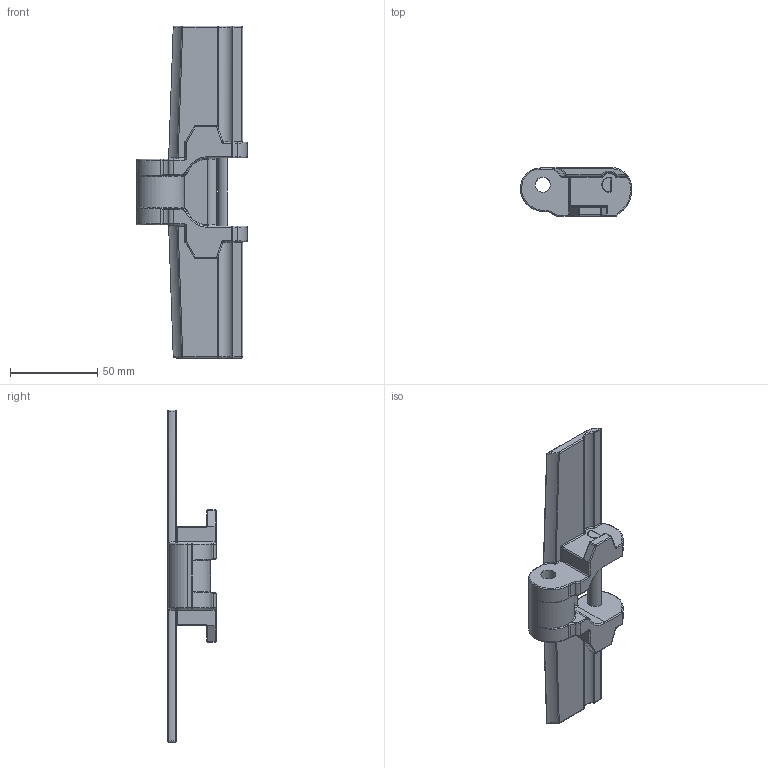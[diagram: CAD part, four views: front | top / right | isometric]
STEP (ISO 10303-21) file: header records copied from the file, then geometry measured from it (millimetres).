
FILE_DESCRIPTION (( 'STEP AP203' ), '1' );
FILE_NAME ('2000.882.750.STEP', '2020-05-04T14:50:06', ( 'Localadmin' ), ( 'Microsoft' ), 'SwSTEP 2.0', 'SolidWorks 2018', '' );
FILE_SCHEMA (( 'CONFIG_CONTROL_DESIGN' ));
Length unit declared in the file: millimetre
Products named in the file (1): 2000.882.750
Bounding box: 63.5 x 27.69 x 190.5 mm (x, y, z)
Volume: 66905 mm3; surface area: 26888.7 mm2
Topology: 2 solids, 2 shells, 279 faces, 656 edges, 351 vertices
Faces by surface type: cylinder 112, torus 59, plane 47, bspline 34, sphere 24, cone 3
Entity records: 9673 total; most frequent: CARTESIAN_POINT 3539, DIRECTION 1336, ORIENTED_EDGE 1252, EDGE_CURVE 626, AXIS2_PLACEMENT_3D 556, VERTEX_POINT 351, CIRCLE 310, EDGE_LOOP 285
